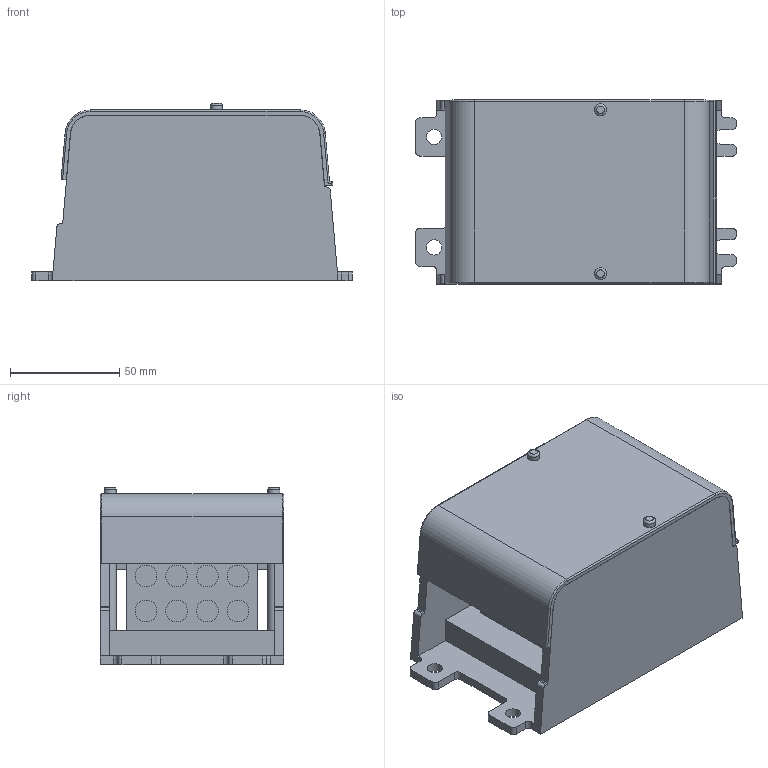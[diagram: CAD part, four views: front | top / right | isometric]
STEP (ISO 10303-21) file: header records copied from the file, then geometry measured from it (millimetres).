
FILE_DESCRIPTION(/* description */ ('Unknown'),/* implementation_level */ '2;1');
FILE_NAME(/* name */ 'utb-s 2x240_8x35',/* time_stamp */ '2021-05-10T12:35:18+02:00',/* author */ ('Unknown'),/* organization */ ('Unknown'),/* preprocessor_version */ 'ST-DEVELOPER v16.7',/* originating_system */ 'Solid Edge',/* authorisation */ 'Unknown');
FILE_SCHEMA (('AUTOMOTIVE_DESIGN {1 0 10303 214 3 1 1}'));
Length unit declared in the file: millimetre
Products named in the file (4): utb-s 2x240_8x35_sestava; utb-s 2x240_8x35; utb-s 2x240_3x120_viko; srb
Assembly tree (4 placements, depth 2):
  utb-s 2x240_8x35_sestava
    utb-s 2x240_8x35
    utb-s 2x240_3x120_viko
    srb  x2
Bounding box: 146.7 x 84 x 81 mm (x, y, z)
Volume: 367710.2 mm3; surface area: 111794.5 mm2
Topology: 4 solids, 4 shells, 329 faces, 831 edges, 539 vertices
Faces by surface type: plane 203, cylinder 104, sphere 6, cone 6, torus 6, bspline 4
Full cylindrical faces by diameter (mm): 2.4 x4, 3.1 x2, 5.5 x2, 6.9 x8, 7 x2, 10 x8, 15.8 x2, 23 x2
Entity records: 9510 total; most frequent: CARTESIAN_POINT 1690, DIRECTION 1616, ORIENTED_EDGE 1534, EDGE_CURVE 767, AXIS2_PLACEMENT_3D 541, LINE 534, VECTOR 534, VERTEX_POINT 515
